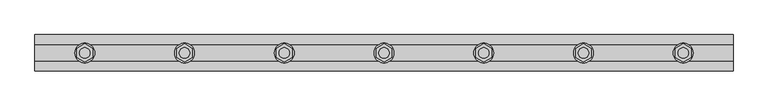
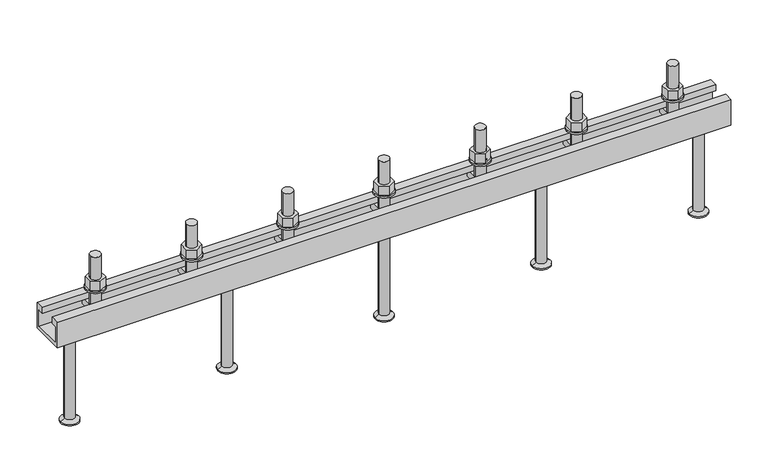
"""IFC4 building model written with IfcOpenShell, lengths in millimetres: fastener geometry, JTA-W JORDAHL® AnchorChannels : JTA-W L=1050 mm."""

from ifc_helpers import new_model, si_unit, point, frame, frame_2d, origin, place, context, project, spatial, polyline, circle_curve, trimmed, segment, composite_curve, outline, extrude, source, transform, mapped, element, save
from ifc_brep_helpers import plane_surface, cylinder_surface, revolved_surface, advanced_brep


def fastener_55e4fc31(model_context):
    return source(origin(), model_context, "Body", "SolidModel", [
        extrude(outline(polyline([(825.0, -13.8564065), (813.0, -6.9282032), (813.0, 6.9282032), (825.0, 13.8564065), (837.0, 6.9282032), (837.0, -6.9282032), (825.0, -13.8564065)]), holes=[composite_curve([segment(trimmed(circle_curve(frame_2d((825.0, 0.0)), 8.0), [point((817.0, 0.0))], [point((833.0, 0.0))], True, "CARTESIAN"), True, "CONTINUOUS"), segment(trimmed(circle_curve(frame_2d((825.0, 0.0)), 8.0), [point((833.0, 0.0))], [point((817.0, 0.0))], True, "CARTESIAN"), True, "CONTINUOUS")], self_intersect=False)]), frame((0.0, 0.0, 18.0), z_axis=(0.0, 0.0, 1.0), x_axis=(1.0, 0.0, 0.0)), (0.0, 0.0, 1.0), 14.8),
        extrude(outline(composite_curve([segment(trimmed(circle_curve(frame_2d((825.0, 0.0)), 15.0), [point((810.0, 0.0))], [point((840.0, 0.0))], False, "CARTESIAN"), True, "CONTINUOUS"), segment(trimmed(circle_curve(frame_2d((825.0, 0.0)), 15.0), [point((840.0, 0.0))], [point((810.0, 0.0))], False, "CARTESIAN"), True, "CONTINUOUS")], self_intersect=False), holes=[composite_curve([segment(trimmed(circle_curve(frame_2d((825.0, 0.0)), 8.5), [point((816.5, 0.0))], [point((833.5, 0.0))], True, "CARTESIAN"), True, "CONTINUOUS"), segment(trimmed(circle_curve(frame_2d((825.0, 0.0)), 8.5), [point((833.5, 0.0))], [point((816.5, 0.0))], True, "CARTESIAN"), True, "CONTINUOUS")], self_intersect=False)]), frame((0.0, 0.0, 15.0), z_axis=(0.0, 0.0, 1.0), x_axis=(1.0, 0.0, 0.0)), (0.0, 0.0, 1.0), 3.0),
        extrude(outline(polyline([(675.0, -13.8564065), (663.0, -6.9282032), (663.0, 6.9282032), (675.0, 13.8564065), (687.0, 6.9282032), (687.0, -6.9282032), (675.0, -13.8564065)]), holes=[composite_curve([segment(trimmed(circle_curve(frame_2d((675.0, 0.0)), 8.0), [point((667.0, 0.0))], [point((683.0, 0.0))], True, "CARTESIAN"), True, "CONTINUOUS"), segment(trimmed(circle_curve(frame_2d((675.0, 0.0)), 8.0), [point((683.0, 0.0))], [point((667.0, 0.0))], True, "CARTESIAN"), True, "CONTINUOUS")], self_intersect=False)]), frame((0.0, 0.0, 18.0), z_axis=(0.0, 0.0, 1.0), x_axis=(1.0, 0.0, 0.0)), (0.0, 0.0, 1.0), 14.8),
        extrude(outline(composite_curve([segment(trimmed(circle_curve(frame_2d((675.0, 0.0)), 15.0), [point((660.0, 0.0))], [point((690.0, 0.0))], False, "CARTESIAN"), True, "CONTINUOUS"), segment(trimmed(circle_curve(frame_2d((675.0, 0.0)), 15.0), [point((690.0, 0.0))], [point((660.0, 0.0))], False, "CARTESIAN"), True, "CONTINUOUS")], self_intersect=False), holes=[composite_curve([segment(trimmed(circle_curve(frame_2d((675.0, 0.0)), 8.5), [point((666.5, 0.0))], [point((683.5, 0.0))], True, "CARTESIAN"), True, "CONTINUOUS"), segment(trimmed(circle_curve(frame_2d((675.0, 0.0)), 8.5), [point((683.5, 0.0))], [point((666.5, 0.0))], True, "CARTESIAN"), True, "CONTINUOUS")], self_intersect=False)]), frame((0.0, 0.0, 15.0), z_axis=(0.0, 0.0, 1.0), x_axis=(1.0, 0.0, 0.0)), (0.0, 0.0, 1.0), 3.0),
        extrude(outline(polyline([(525.0, -13.8564065), (513.0, -6.9282032), (513.0, 6.9282032), (525.0, 13.8564065), (537.0, 6.9282032), (537.0, -6.9282032), (525.0, -13.8564065)]), holes=[composite_curve([segment(trimmed(circle_curve(frame_2d((525.0, 0.0)), 8.0), [point((517.0, 0.0))], [point((533.0, 0.0))], True, "CARTESIAN"), True, "CONTINUOUS"), segment(trimmed(circle_curve(frame_2d((525.0, 0.0)), 8.0), [point((533.0, 0.0))], [point((517.0, 0.0))], True, "CARTESIAN"), True, "CONTINUOUS")], self_intersect=False)]), frame((0.0, 0.0, 18.0), z_axis=(0.0, 0.0, 1.0), x_axis=(1.0, 0.0, 0.0)), (0.0, 0.0, 1.0), 14.8),
        extrude(outline(composite_curve([segment(trimmed(circle_curve(frame_2d((525.0, 0.0)), 15.0), [point((510.0, 0.0))], [point((540.0, 0.0))], False, "CARTESIAN"), True, "CONTINUOUS"), segment(trimmed(circle_curve(frame_2d((525.0, 0.0)), 15.0), [point((540.0, 0.0))], [point((510.0, 0.0))], False, "CARTESIAN"), True, "CONTINUOUS")], self_intersect=False), holes=[composite_curve([segment(trimmed(circle_curve(frame_2d((525.0, 0.0)), 8.5), [point((516.5, 0.0))], [point((533.5, 0.0))], True, "CARTESIAN"), True, "CONTINUOUS"), segment(trimmed(circle_curve(frame_2d((525.0, 0.0)), 8.5), [point((533.5, 0.0))], [point((516.5, 0.0))], True, "CARTESIAN"), True, "CONTINUOUS")], self_intersect=False)]), frame((0.0, 0.0, 15.0), z_axis=(0.0, 0.0, 1.0), x_axis=(1.0, 0.0, 0.0)), (0.0, 0.0, 1.0), 3.0),
        extrude(outline(polyline([(375.0, -13.8564065), (363.0, -6.9282032), (363.0, 6.9282032), (375.0, 13.8564065), (387.0, 6.9282032), (387.0, -6.9282032), (375.0, -13.8564065)]), holes=[composite_curve([segment(trimmed(circle_curve(frame_2d((375.0, 0.0)), 8.0), [point((367.0, 0.0))], [point((383.0, 0.0))], True, "CARTESIAN"), True, "CONTINUOUS"), segment(trimmed(circle_curve(frame_2d((375.0, 0.0)), 8.0), [point((383.0, 0.0))], [point((367.0, 0.0))], True, "CARTESIAN"), True, "CONTINUOUS")], self_intersect=False)]), frame((0.0, 0.0, 18.0), z_axis=(0.0, 0.0, 1.0), x_axis=(1.0, 0.0, 0.0)), (0.0, 0.0, 1.0), 14.8),
        extrude(outline(composite_curve([segment(trimmed(circle_curve(frame_2d((375.0, 0.0)), 15.0), [point((360.0, 0.0))], [point((390.0, 0.0))], False, "CARTESIAN"), True, "CONTINUOUS"), segment(trimmed(circle_curve(frame_2d((375.0, 0.0)), 15.0), [point((390.0, 0.0))], [point((360.0, 0.0))], False, "CARTESIAN"), True, "CONTINUOUS")], self_intersect=False), holes=[composite_curve([segment(trimmed(circle_curve(frame_2d((375.0, 0.0)), 8.5), [point((366.5, 0.0))], [point((383.5, 0.0))], True, "CARTESIAN"), True, "CONTINUOUS"), segment(trimmed(circle_curve(frame_2d((375.0, 0.0)), 8.5), [point((383.5, 0.0))], [point((366.5, 0.0))], True, "CARTESIAN"), True, "CONTINUOUS")], self_intersect=False)]), frame((0.0, 0.0, 15.0), z_axis=(0.0, 0.0, 1.0), x_axis=(1.0, 0.0, 0.0)), (0.0, 0.0, 1.0), 3.0),
        extrude(outline(polyline([(225.0, -13.8564065), (213.0, -6.9282032), (213.0, 6.9282032), (225.0, 13.8564065), (237.0, 6.9282032), (237.0, -6.9282032), (225.0, -13.8564065)]), holes=[composite_curve([segment(trimmed(circle_curve(frame_2d((225.0, 0.0)), 8.0), [point((217.0, 0.0))], [point((233.0, 0.0))], True, "CARTESIAN"), True, "CONTINUOUS"), segment(trimmed(circle_curve(frame_2d((225.0, 0.0)), 8.0), [point((233.0, 0.0))], [point((217.0, 0.0))], True, "CARTESIAN"), True, "CONTINUOUS")], self_intersect=False)]), frame((0.0, 0.0, 18.0), z_axis=(0.0, 0.0, 1.0), x_axis=(1.0, 0.0, 0.0)), (0.0, 0.0, 1.0), 14.8),
        extrude(outline(composite_curve([segment(trimmed(circle_curve(frame_2d((225.0, 0.0)), 15.0), [point((210.0, 0.0))], [point((240.0, 0.0))], False, "CARTESIAN"), True, "CONTINUOUS"), segment(trimmed(circle_curve(frame_2d((225.0, 0.0)), 15.0), [point((240.0, 0.0))], [point((210.0, 0.0))], False, "CARTESIAN"), True, "CONTINUOUS")], self_intersect=False), holes=[composite_curve([segment(trimmed(circle_curve(frame_2d((225.0, 0.0)), 8.5), [point((216.5, 0.0))], [point((233.5, 0.0))], True, "CARTESIAN"), True, "CONTINUOUS"), segment(trimmed(circle_curve(frame_2d((225.0, 0.0)), 8.5), [point((233.5, 0.0))], [point((216.5, 0.0))], True, "CARTESIAN"), True, "CONTINUOUS")], self_intersect=False)]), frame((0.0, 0.0, 15.0), z_axis=(0.0, 0.0, 1.0), x_axis=(1.0, 0.0, 0.0)), (0.0, 0.0, 1.0), 3.0),
        advanced_brep(
        [(833.5, -20.7, -10.0), (833.5, -20.7, -21.0), (833.5, 20.7, -21.0), (833.5, 20.7, -10.0), (816.5, -20.7, -10.0), (816.5, 20.7, -10.0), (816.5, 20.7, -21.0), (816.5, -20.7, -21.0), (833.0, 0.0, -10.0), (817.0, 0.0, -10.0), (817.0, 0.0, 70.0), (833.0, 0.0, 70.0)],
        [
            (0, 1),
            (1, 2),
            (2, 3),
            (3, 0),
            (4, 5),
            (5, 6),
            (6, 7),
            (7, 4),
            (3, 5),
            (4, 0),
            (8, 9, circle_curve(frame((825.0, 0.0, -10.0), z_axis=(0.0, 0.0, -1.0), x_axis=(1.0, 0.0, 0.0)), 8.0)),
            (9, 8, circle_curve(frame((825.0, 0.0, -10.0), z_axis=(0.0, 0.0, -1.0), x_axis=(1.0, 0.0, 0.0)), 8.0)),
            (2, 6),
            (1, 7),
            (10, 11, circle_curve(frame((825.0, 0.0, 70.0), z_axis=(0.0, 0.0, 1.0), x_axis=(1.0, 0.0, 0.0)), 8.0)),
            (11, 10, circle_curve(frame((825.0, 0.0, 70.0), z_axis=(0.0, 0.0, 1.0), x_axis=(1.0, 0.0, 0.0)), 8.0)),
            (11, 8),
            (9, 10),
        ],
        [
            plane_surface(frame((833.5, 20.7, -10.0), z_axis=(1.0, 0.0, 0.0), x_axis=(0.0, 1.0, 0.0))),
            plane_surface(frame((816.5, 20.7, -10.0), z_axis=(-1.0, 0.0, 0.0), x_axis=(0.0, -1.0, 0.0))),
            plane_surface(frame((833.5, -20.7, -10.0), z_axis=(0.0, 0.0, 1.0), x_axis=(-1.0, 0.0, 0.0))),
            plane_surface(frame((833.5, 20.7, -10.0), z_axis=(0.0, 1.0, 0.0), x_axis=(-1.0, 0.0, 0.0))),
            plane_surface(frame((833.5, 20.7, -21.0), z_axis=(0.0, 0.0, -1.0), x_axis=(-1.0, 0.0, 0.0))),
            plane_surface(frame((833.5, -20.7, -21.0), z_axis=(0.0, -1.0, 0.0), x_axis=(-1.0, 0.0, 0.0))),
            plane_surface(frame((833.0, 0.0, 70.0), z_axis=(0.0, 0.0, 1.0), x_axis=(0.0, -1.0, 0.0))),
            cylinder_surface(frame((825.0, 0.0, -10.0), z_axis=(0.0, 0.0, 1.0), x_axis=(1.0, 0.0, 0.0)), 8.0),
        ],
        [
            (0, [[1, 2, 3, 4]]),
            (1, [[5, 6, 7, 8]]),
            (2, [[9, -5, 10, -4], [11, 12]]),
            (3, [[13, -6, -9, -3]]),
            (4, [[14, -7, -13, -2]]),
            (5, [[-10, -8, -14, -1]]),
            (6, [[15, 16]]),
            (7, [[17, -12, 18, -16]]),
            (7, [[-18, -11, -17, -15]]),
        ],
    ),
        advanced_brep(
        [(683.5, -20.7, -10.0), (683.5, -20.7, -21.0), (683.5, 20.7, -21.0), (683.5, 20.7, -10.0), (666.5, -20.7, -10.0), (666.5, 20.7, -10.0), (666.5, 20.7, -21.0), (666.5, -20.7, -21.0), (683.0, 0.0, -10.0), (667.0, 0.0, -10.0), (667.0, 0.0, 70.0), (683.0, 0.0, 70.0)],
        [
            (0, 1),
            (1, 2),
            (2, 3),
            (3, 0),
            (4, 5),
            (5, 6),
            (6, 7),
            (7, 4),
            (3, 5),
            (4, 0),
            (8, 9, circle_curve(frame((675.0, 0.0, -10.0), z_axis=(0.0, 0.0, -1.0), x_axis=(1.0, 0.0, 0.0)), 8.0)),
            (9, 8, circle_curve(frame((675.0, 0.0, -10.0), z_axis=(0.0, 0.0, -1.0), x_axis=(1.0, 0.0, 0.0)), 8.0)),
            (2, 6),
            (1, 7),
            (10, 11, circle_curve(frame((675.0, 0.0, 70.0), z_axis=(0.0, 0.0, 1.0), x_axis=(1.0, 0.0, 0.0)), 8.0)),
            (11, 10, circle_curve(frame((675.0, 0.0, 70.0), z_axis=(0.0, 0.0, 1.0), x_axis=(1.0, 0.0, 0.0)), 8.0)),
            (11, 8),
            (9, 10),
        ],
        [
            plane_surface(frame((683.5, 20.7, -10.0), z_axis=(1.0, 0.0, 0.0), x_axis=(0.0, 1.0, 0.0))),
            plane_surface(frame((666.5, 20.7, -10.0), z_axis=(-1.0, 0.0, 0.0), x_axis=(0.0, -1.0, 0.0))),
            plane_surface(frame((683.5, -20.7, -10.0), z_axis=(0.0, 0.0, 1.0), x_axis=(-1.0, 0.0, 0.0))),
            plane_surface(frame((683.5, 20.7, -10.0), z_axis=(0.0, 1.0, 0.0), x_axis=(-1.0, 0.0, 0.0))),
            plane_surface(frame((683.5, 20.7, -21.0), z_axis=(0.0, 0.0, -1.0), x_axis=(-1.0, 0.0, 0.0))),
            plane_surface(frame((683.5, -20.7, -21.0), z_axis=(0.0, -1.0, 0.0), x_axis=(-1.0, 0.0, 0.0))),
            plane_surface(frame((683.0, 0.0, 70.0), z_axis=(0.0, 0.0, 1.0), x_axis=(0.0, -1.0, 0.0))),
            cylinder_surface(frame((675.0, 0.0, -10.0), z_axis=(0.0, 0.0, 1.0), x_axis=(1.0, 0.0, 0.0)), 8.0),
        ],
        [
            (0, [[1, 2, 3, 4]]),
            (1, [[5, 6, 7, 8]]),
            (2, [[9, -5, 10, -4], [11, 12]]),
            (3, [[13, -6, -9, -3]]),
            (4, [[14, -7, -13, -2]]),
            (5, [[-10, -8, -14, -1]]),
            (6, [[15, 16]]),
            (7, [[17, -12, 18, -16]]),
            (7, [[-18, -11, -17, -15]]),
        ],
    ),
        advanced_brep(
        [(533.5, -20.7, -10.0), (533.5, -20.7, -21.0), (533.5, 20.7, -21.0), (533.5, 20.7, -10.0), (516.5, -20.7, -10.0), (516.5, 20.7, -10.0), (516.5, 20.7, -21.0), (516.5, -20.7, -21.0), (533.0, 0.0, -10.0), (517.0, 0.0, -10.0), (517.0, 0.0, 70.0), (533.0, 0.0, 70.0)],
        [
            (0, 1),
            (1, 2),
            (2, 3),
            (3, 0),
            (4, 5),
            (5, 6),
            (6, 7),
            (7, 4),
            (3, 5),
            (4, 0),
            (8, 9, circle_curve(frame((525.0, 0.0, -10.0), z_axis=(0.0, 0.0, -1.0), x_axis=(1.0, 0.0, 0.0)), 8.0)),
            (9, 8, circle_curve(frame((525.0, 0.0, -10.0), z_axis=(0.0, 0.0, -1.0), x_axis=(1.0, 0.0, 0.0)), 8.0)),
            (2, 6),
            (1, 7),
            (10, 11, circle_curve(frame((525.0, 0.0, 70.0), z_axis=(0.0, 0.0, 1.0), x_axis=(1.0, 0.0, 0.0)), 8.0)),
            (11, 10, circle_curve(frame((525.0, 0.0, 70.0), z_axis=(0.0, 0.0, 1.0), x_axis=(1.0, 0.0, 0.0)), 8.0)),
            (11, 8),
            (9, 10),
        ],
        [
            plane_surface(frame((533.5, 20.7, -10.0), z_axis=(1.0, 0.0, 0.0), x_axis=(0.0, 1.0, 0.0))),
            plane_surface(frame((516.5, 20.7, -10.0), z_axis=(-1.0, 0.0, 0.0), x_axis=(0.0, -1.0, 0.0))),
            plane_surface(frame((533.5, -20.7, -10.0), z_axis=(0.0, 0.0, 1.0), x_axis=(-1.0, 0.0, 0.0))),
            plane_surface(frame((533.5, 20.7, -10.0), z_axis=(0.0, 1.0, 0.0), x_axis=(-1.0, 0.0, 0.0))),
            plane_surface(frame((533.5, 20.7, -21.0), z_axis=(0.0, 0.0, -1.0), x_axis=(-1.0, 0.0, 0.0))),
            plane_surface(frame((533.5, -20.7, -21.0), z_axis=(0.0, -1.0, 0.0), x_axis=(-1.0, 0.0, 0.0))),
            plane_surface(frame((533.0, 0.0, 70.0), z_axis=(0.0, 0.0, 1.0), x_axis=(0.0, -1.0, 0.0))),
            cylinder_surface(frame((525.0, 0.0, -10.0), z_axis=(0.0, 0.0, 1.0), x_axis=(1.0, 0.0, 0.0)), 8.0),
        ],
        [
            (0, [[1, 2, 3, 4]]),
            (1, [[5, 6, 7, 8]]),
            (2, [[9, -5, 10, -4], [11, 12]]),
            (3, [[13, -6, -9, -3]]),
            (4, [[14, -7, -13, -2]]),
            (5, [[-10, -8, -14, -1]]),
            (6, [[15, 16]]),
            (7, [[17, -12, 18, -16]]),
            (7, [[-18, -11, -17, -15]]),
        ],
    ),
        advanced_brep(
        [(383.5, -20.7, -10.0), (383.5, -20.7, -21.0), (383.5, 20.7, -21.0), (383.5, 20.7, -10.0), (366.5, -20.7, -10.0), (366.5, 20.7, -10.0), (366.5, 20.7, -21.0), (366.5, -20.7, -21.0), (383.0, 0.0, -10.0), (367.0, 0.0, -10.0), (367.0, 0.0, 70.0), (383.0, 0.0, 70.0)],
        [
            (0, 1),
            (1, 2),
            (2, 3),
            (3, 0),
            (4, 5),
            (5, 6),
            (6, 7),
            (7, 4),
            (3, 5),
            (4, 0),
            (8, 9, circle_curve(frame((375.0, 0.0, -10.0), z_axis=(0.0, 0.0, -1.0), x_axis=(1.0, 0.0, 0.0)), 8.0)),
            (9, 8, circle_curve(frame((375.0, 0.0, -10.0), z_axis=(0.0, 0.0, -1.0), x_axis=(1.0, 0.0, 0.0)), 8.0)),
            (2, 6),
            (1, 7),
            (10, 11, circle_curve(frame((375.0, 0.0, 70.0), z_axis=(0.0, 0.0, 1.0), x_axis=(1.0, 0.0, 0.0)), 8.0)),
            (11, 10, circle_curve(frame((375.0, 0.0, 70.0), z_axis=(0.0, 0.0, 1.0), x_axis=(1.0, 0.0, 0.0)), 8.0)),
            (11, 8),
            (9, 10),
        ],
        [
            plane_surface(frame((383.5, 20.7, -10.0), z_axis=(1.0, 0.0, 0.0), x_axis=(0.0, 1.0, 0.0))),
            plane_surface(frame((366.5, 20.7, -10.0), z_axis=(-1.0, 0.0, 0.0), x_axis=(0.0, -1.0, 0.0))),
            plane_surface(frame((383.5, -20.7, -10.0), z_axis=(0.0, 0.0, 1.0), x_axis=(-1.0, 0.0, 0.0))),
            plane_surface(frame((383.5, 20.7, -10.0), z_axis=(0.0, 1.0, 0.0), x_axis=(-1.0, 0.0, 0.0))),
            plane_surface(frame((383.5, 20.7, -21.0), z_axis=(0.0, 0.0, -1.0), x_axis=(-1.0, 0.0, 0.0))),
            plane_surface(frame((383.5, -20.7, -21.0), z_axis=(0.0, -1.0, 0.0), x_axis=(-1.0, 0.0, 0.0))),
            plane_surface(frame((383.0, 0.0, 70.0), z_axis=(0.0, 0.0, 1.0), x_axis=(0.0, -1.0, 0.0))),
            cylinder_surface(frame((375.0, 0.0, -10.0), z_axis=(0.0, 0.0, 1.0), x_axis=(1.0, 0.0, 0.0)), 8.0),
        ],
        [
            (0, [[1, 2, 3, 4]]),
            (1, [[5, 6, 7, 8]]),
            (2, [[9, -5, 10, -4], [11, 12]]),
            (3, [[13, -6, -9, -3]]),
            (4, [[14, -7, -13, -2]]),
            (5, [[-10, -8, -14, -1]]),
            (6, [[15, 16]]),
            (7, [[17, -12, 18, -16]]),
            (7, [[-18, -11, -17, -15]]),
        ],
    ),
        advanced_brep(
        [(233.5, -20.7, -10.0), (233.5, -20.7, -21.0), (233.5, 20.7, -21.0), (233.5, 20.7, -10.0), (216.5, -20.7, -10.0), (216.5, 20.7, -10.0), (216.5, 20.7, -21.0), (216.5, -20.7, -21.0), (233.0, 0.0, -10.0), (217.0, 0.0, -10.0), (217.0, 0.0, 70.0), (233.0, 0.0, 70.0)],
        [
            (0, 1),
            (1, 2),
            (2, 3),
            (3, 0),
            (4, 5),
            (5, 6),
            (6, 7),
            (7, 4),
            (3, 5),
            (4, 0),
            (8, 9, circle_curve(frame((225.0, 0.0, -10.0), z_axis=(0.0, 0.0, -1.0), x_axis=(1.0, 0.0, 0.0)), 8.0)),
            (9, 8, circle_curve(frame((225.0, 0.0, -10.0), z_axis=(0.0, 0.0, -1.0), x_axis=(1.0, 0.0, 0.0)), 8.0)),
            (2, 6),
            (1, 7),
            (10, 11, circle_curve(frame((225.0, 0.0, 70.0), z_axis=(0.0, 0.0, 1.0), x_axis=(1.0, 0.0, 0.0)), 8.0)),
            (11, 10, circle_curve(frame((225.0, 0.0, 70.0), z_axis=(0.0, 0.0, 1.0), x_axis=(1.0, 0.0, 0.0)), 8.0)),
            (11, 8),
            (9, 10),
        ],
        [
            plane_surface(frame((233.5, 20.7, -10.0), z_axis=(1.0, 0.0, 0.0), x_axis=(0.0, 1.0, 0.0))),
            plane_surface(frame((216.5, 20.7, -10.0), z_axis=(-1.0, 0.0, 0.0), x_axis=(0.0, -1.0, 0.0))),
            plane_surface(frame((233.5, -20.7, -10.0), z_axis=(0.0, 0.0, 1.0), x_axis=(-1.0, 0.0, 0.0))),
            plane_surface(frame((233.5, 20.7, -10.0), z_axis=(0.0, 1.0, 0.0), x_axis=(-1.0, 0.0, 0.0))),
            plane_surface(frame((233.5, 20.7, -21.0), z_axis=(0.0, 0.0, -1.0), x_axis=(-1.0, 0.0, 0.0))),
            plane_surface(frame((233.5, -20.7, -21.0), z_axis=(0.0, -1.0, 0.0), x_axis=(-1.0, 0.0, 0.0))),
            plane_surface(frame((233.0, 0.0, 70.0), z_axis=(0.0, 0.0, 1.0), x_axis=(0.0, -1.0, 0.0))),
            cylinder_surface(frame((225.0, 0.0, -10.0), z_axis=(0.0, 0.0, 1.0), x_axis=(1.0, 0.0, 0.0)), 8.0),
        ],
        [
            (0, [[1, 2, 3, 4]]),
            (1, [[5, 6, 7, 8]]),
            (2, [[9, -5, 10, -4], [11, 12]]),
            (3, [[13, -6, -9, -3]]),
            (4, [[14, -7, -13, -2]]),
            (5, [[-10, -8, -14, -1]]),
            (6, [[15, 16]]),
            (7, [[17, -12, 18, -16]]),
            (7, [[-18, -11, -17, -15]]),
        ],
    ),
        advanced_brep(
        [(770.0, 0.0, -42.0), (747.0, 0.0, -42.0), (793.0, 0.0, -42.0), (756.0, 0.0, -190.0), (770.0, 0.0, -190.0), (784.0, 0.0, -190.0), (756.0, 0.0, -188.0), (784.0, 0.0, -188.0), (762.2, 0.0, -184.4204283), (777.8, 0.0, -184.4204283), (762.2, 0.0, -46.0), (777.8, 0.0, -46.0)],
        [
            (0, 1),
            (1, 2, circle_curve(frame((770.0, 0.0, -42.0), z_axis=(0.0, 0.0, 1.0), x_axis=(1.0, 0.0, 0.0)), 23.0)),
            (2, 0),
            (2, 1, circle_curve(frame((770.0, 0.0, -42.0), z_axis=(0.0, 0.0, 1.0), x_axis=(1.0, 0.0, 0.0)), 23.0)),
            (3, 4),
            (4, 5),
            (5, 3, circle_curve(frame((770.0, 0.0, -190.0), z_axis=(0.0, 0.0, -1.0), x_axis=(1.0, 0.0, 0.0)), 14.0)),
            (3, 5, circle_curve(frame((770.0, 0.0, -190.0), z_axis=(0.0, 0.0, -1.0), x_axis=(1.0, 0.0, 0.0)), 14.0)),
            (6, 3),
            (5, 7),
            (7, 6, circle_curve(frame((770.0, 0.0, -188.0), z_axis=(0.0, 0.0, -1.0), x_axis=(1.0, 0.0, 0.0)), 14.0)),
            (6, 7, circle_curve(frame((770.0, 0.0, -188.0), z_axis=(0.0, 0.0, -1.0), x_axis=(1.0, 0.0, 0.0)), 14.0)),
            (8, 6),
            (7, 9),
            (9, 8, circle_curve(frame((770.0, 0.0, -184.4204283), z_axis=(0.0, 0.0, -1.0), x_axis=(1.0, 0.0, 0.0)), 7.8)),
            (8, 9, circle_curve(frame((770.0, 0.0, -184.4204283), z_axis=(0.0, 0.0, -1.0), x_axis=(1.0, 0.0, 0.0)), 7.8)),
            (10, 8),
            (9, 11),
            (11, 10, circle_curve(frame((770.0, 0.0, -46.0), z_axis=(0.0, 0.0, -1.0), x_axis=(1.0, 0.0, 0.0)), 7.8)),
            (10, 11, circle_curve(frame((770.0, 0.0, -46.0), z_axis=(0.0, 0.0, -1.0), x_axis=(1.0, 0.0, 0.0)), 7.8)),
            (1, 10),
            (11, 2),
        ],
        [
            plane_surface(frame((770.0, 0.0, -42.0), z_axis=(0.0, 0.0, 1.0), x_axis=(1.0, 0.0, 0.0))),
            plane_surface(frame((770.0, 0.0, -190.0), z_axis=(0.0, 0.0, -1.0), x_axis=(1.0, 0.0, 0.0))),
            cylinder_surface(frame((770.0, 0.0, 2362.3150031), z_axis=(0.0, 0.0, 1.0), x_axis=(1.0, 0.0, 0.0)), 14.0),
            revolved_surface(polyline([(784.0, 0.0, -188.0), (777.8, 0.0, -184.4204283)]), (770.0, 0.0, 2362.3150031), (0.0, 0.0, 1.0)),
            cylinder_surface(frame((770.0, 0.0, 2362.3150031), z_axis=(0.0, 0.0, 1.0), x_axis=(1.0, 0.0, 0.0)), 7.8),
            revolved_surface(polyline([(777.8, 0.0, -46.0), (793.0, 0.0, -42.0)]), (770.0, 0.0, 2362.3150031), (0.0, 0.0, 1.0)),
        ],
        [
            (0, [[1, 2, 3]]),
            (0, [[-3, 4, -1]]),
            (1, [[5, 6, 7]]),
            (1, [[-6, -5, 8]]),
            (2, [[9, -7, 10, 11]]),
            (2, [[-10, -8, -9, 12]]),
            (3, [[13, -11, 14, 15]]),
            (3, [[-14, -12, -13, 16]]),
            (4, [[17, -15, 18, 19]]),
            (4, [[-18, -16, -17, 20]]),
            (5, [[21, -19, 22, -2]]),
            (5, [[-22, -20, -21, -4]]),
        ],
    ),
        advanced_brep(
        [(525.0, 0.0, -42.0), (502.0, 0.0, -42.0), (548.0, 0.0, -42.0), (511.0, 0.0, -190.0), (525.0, 0.0, -190.0), (539.0, 0.0, -190.0), (511.0, 0.0, -188.0), (539.0, 0.0, -188.0), (517.2, 0.0, -184.4204283), (532.8, 0.0, -184.4204283), (517.2, 0.0, -46.0), (532.8, 0.0, -46.0)],
        [
            (0, 1),
            (1, 2, circle_curve(frame((525.0, 0.0, -42.0), z_axis=(0.0, 0.0, 1.0), x_axis=(1.0, 0.0, 0.0)), 23.0)),
            (2, 0),
            (2, 1, circle_curve(frame((525.0, 0.0, -42.0), z_axis=(0.0, 0.0, 1.0), x_axis=(1.0, 0.0, 0.0)), 23.0)),
            (3, 4),
            (4, 5),
            (5, 3, circle_curve(frame((525.0, 0.0, -190.0), z_axis=(0.0, 0.0, -1.0), x_axis=(1.0, 0.0, 0.0)), 14.0)),
            (3, 5, circle_curve(frame((525.0, 0.0, -190.0), z_axis=(0.0, 0.0, -1.0), x_axis=(1.0, 0.0, 0.0)), 14.0)),
            (6, 3),
            (5, 7),
            (7, 6, circle_curve(frame((525.0, 0.0, -188.0), z_axis=(0.0, 0.0, -1.0), x_axis=(1.0, 0.0, 0.0)), 14.0)),
            (6, 7, circle_curve(frame((525.0, 0.0, -188.0), z_axis=(0.0, 0.0, -1.0), x_axis=(1.0, 0.0, 0.0)), 14.0)),
            (8, 6),
            (7, 9),
            (9, 8, circle_curve(frame((525.0, 0.0, -184.4204283), z_axis=(0.0, 0.0, -1.0), x_axis=(1.0, 0.0, 0.0)), 7.8)),
            (8, 9, circle_curve(frame((525.0, 0.0, -184.4204283), z_axis=(0.0, 0.0, -1.0), x_axis=(1.0, 0.0, 0.0)), 7.8)),
            (10, 8),
            (9, 11),
            (11, 10, circle_curve(frame((525.0, 0.0, -46.0), z_axis=(0.0, 0.0, -1.0), x_axis=(1.0, 0.0, 0.0)), 7.8)),
            (10, 11, circle_curve(frame((525.0, 0.0, -46.0), z_axis=(0.0, 0.0, -1.0), x_axis=(1.0, 0.0, 0.0)), 7.8)),
            (1, 10),
            (11, 2),
        ],
        [
            plane_surface(frame((525.0, 0.0, -42.0), z_axis=(0.0, 0.0, 1.0), x_axis=(1.0, 0.0, 0.0))),
            plane_surface(frame((525.0, 0.0, -190.0), z_axis=(0.0, 0.0, -1.0), x_axis=(1.0, 0.0, 0.0))),
            cylinder_surface(frame((525.0, 0.0, 2362.3150031), z_axis=(0.0, 0.0, 1.0), x_axis=(1.0, 0.0, 0.0)), 14.0),
            revolved_surface(polyline([(539.0, 0.0, -188.0), (532.8, 0.0, -184.4204283)]), (525.0, 0.0, 2362.3150031), (0.0, 0.0, 1.0)),
            cylinder_surface(frame((525.0, 0.0, 2362.3150031), z_axis=(0.0, 0.0, 1.0), x_axis=(1.0, 0.0, 0.0)), 7.8),
            revolved_surface(polyline([(532.8, 0.0, -46.0), (548.0, 0.0, -42.0)]), (525.0, 0.0, 2362.3150031), (0.0, 0.0, 1.0)),
        ],
        [
            (0, [[1, 2, 3]]),
            (0, [[-3, 4, -1]]),
            (1, [[5, 6, 7]]),
            (1, [[-6, -5, 8]]),
            (2, [[9, -7, 10, 11]]),
            (2, [[-10, -8, -9, 12]]),
            (3, [[13, -11, 14, 15]]),
            (3, [[-14, -12, -13, 16]]),
            (4, [[17, -15, 18, 19]]),
            (4, [[-18, -16, -17, 20]]),
            (5, [[21, -19, 22, -2]]),
            (5, [[-22, -20, -21, -4]]),
        ],
    ),
        advanced_brep(
        [(280.0, 0.0, -42.0), (257.0, 0.0, -42.0), (303.0, 0.0, -42.0), (266.0, 0.0, -190.0), (280.0, 0.0, -190.0), (294.0, 0.0, -190.0), (266.0, 0.0, -188.0), (294.0, 0.0, -188.0), (272.2, 0.0, -184.4204283), (287.8, 0.0, -184.4204283), (272.2, 0.0, -46.0), (287.8, 0.0, -46.0)],
        [
            (0, 1),
            (1, 2, circle_curve(frame((280.0, 0.0, -42.0), z_axis=(0.0, 0.0, 1.0), x_axis=(1.0, 0.0, 0.0)), 23.0)),
            (2, 0),
            (2, 1, circle_curve(frame((280.0, 0.0, -42.0), z_axis=(0.0, 0.0, 1.0), x_axis=(1.0, 0.0, 0.0)), 23.0)),
            (3, 4),
            (4, 5),
            (5, 3, circle_curve(frame((280.0, 0.0, -190.0), z_axis=(0.0, 0.0, -1.0), x_axis=(1.0, 0.0, 0.0)), 14.0)),
            (3, 5, circle_curve(frame((280.0, 0.0, -190.0), z_axis=(0.0, 0.0, -1.0), x_axis=(1.0, 0.0, 0.0)), 14.0)),
            (6, 3),
            (5, 7),
            (7, 6, circle_curve(frame((280.0, 0.0, -188.0), z_axis=(0.0, 0.0, -1.0), x_axis=(1.0, 0.0, 0.0)), 14.0)),
            (6, 7, circle_curve(frame((280.0, 0.0, -188.0), z_axis=(0.0, 0.0, -1.0), x_axis=(1.0, 0.0, 0.0)), 14.0)),
            (8, 6),
            (7, 9),
            (9, 8, circle_curve(frame((280.0, 0.0, -184.4204283), z_axis=(0.0, 0.0, -1.0), x_axis=(1.0, 0.0, 0.0)), 7.8)),
            (8, 9, circle_curve(frame((280.0, 0.0, -184.4204283), z_axis=(0.0, 0.0, -1.0), x_axis=(1.0, 0.0, 0.0)), 7.8)),
            (10, 8),
            (9, 11),
            (11, 10, circle_curve(frame((280.0, 0.0, -46.0), z_axis=(0.0, 0.0, -1.0), x_axis=(1.0, 0.0, 0.0)), 7.8)),
            (10, 11, circle_curve(frame((280.0, 0.0, -46.0), z_axis=(0.0, 0.0, -1.0), x_axis=(1.0, 0.0, 0.0)), 7.8)),
            (1, 10),
            (11, 2),
        ],
        [
            plane_surface(frame((280.0, 0.0, -42.0), z_axis=(0.0, 0.0, 1.0), x_axis=(1.0, 0.0, 0.0))),
            plane_surface(frame((280.0, 0.0, -190.0), z_axis=(0.0, 0.0, -1.0), x_axis=(1.0, 0.0, 0.0))),
            cylinder_surface(frame((280.0, 0.0, 2362.3150031), z_axis=(0.0, 0.0, 1.0), x_axis=(1.0, 0.0, 0.0)), 14.0),
            revolved_surface(polyline([(294.0, 0.0, -188.0), (287.8, 0.0, -184.4204283)]), (280.0, 0.0, 2362.3150031), (0.0, 0.0, 1.0)),
            cylinder_surface(frame((280.0, 0.0, 2362.3150031), z_axis=(0.0, 0.0, 1.0), x_axis=(1.0, 0.0, 0.0)), 7.8),
            revolved_surface(polyline([(287.8, 0.0, -46.0), (303.0, 0.0, -42.0)]), (280.0, 0.0, 2362.3150031), (0.0, 0.0, 1.0)),
        ],
        [
            (0, [[1, 2, 3]]),
            (0, [[-3, 4, -1]]),
            (1, [[5, 6, 7]]),
            (1, [[-6, -5, 8]]),
            (2, [[9, -7, 10, 11]]),
            (2, [[-10, -8, -9, 12]]),
            (3, [[13, -11, 14, 15]]),
            (3, [[-14, -12, -13, 16]]),
            (4, [[17, -15, 18, 19]]),
            (4, [[-18, -16, -17, 20]]),
            (5, [[21, -19, 22, -2]]),
            (5, [[-22, -20, -21, -4]]),
        ],
    ),
        extrude(outline(polyline([(975.0, -13.8564065), (963.0, -6.9282032), (963.0, 6.9282032), (975.0, 13.8564065), (987.0, 6.9282032), (987.0, -6.9282032), (975.0, -13.8564065)]), holes=[composite_curve([segment(trimmed(circle_curve(frame_2d((975.0, 0.0)), 8.0), [point((967.0, 0.0))], [point((983.0, 0.0))], True, "CARTESIAN"), True, "CONTINUOUS"), segment(trimmed(circle_curve(frame_2d((975.0, 0.0)), 8.0), [point((983.0, 0.0))], [point((967.0, 0.0))], True, "CARTESIAN"), True, "CONTINUOUS")], self_intersect=False)]), frame((0.0, 0.0, 18.0), z_axis=(0.0, 0.0, 1.0), x_axis=(1.0, 0.0, 0.0)), (0.0, 0.0, 1.0), 14.8),
        extrude(outline(composite_curve([segment(trimmed(circle_curve(frame_2d((975.0, 0.0)), 15.0), [point((960.0, 0.0))], [point((990.0, 0.0))], False, "CARTESIAN"), True, "CONTINUOUS"), segment(trimmed(circle_curve(frame_2d((975.0, 0.0)), 15.0), [point((990.0, 0.0))], [point((960.0, 0.0))], False, "CARTESIAN"), True, "CONTINUOUS")], self_intersect=False), holes=[composite_curve([segment(trimmed(circle_curve(frame_2d((975.0, 0.0)), 8.5), [point((966.5, 0.0))], [point((983.5, 0.0))], True, "CARTESIAN"), True, "CONTINUOUS"), segment(trimmed(circle_curve(frame_2d((975.0, 0.0)), 8.5), [point((983.5, 0.0))], [point((966.5, 0.0))], True, "CARTESIAN"), True, "CONTINUOUS")], self_intersect=False)]), frame((0.0, 0.0, 15.0), z_axis=(0.0, 0.0, 1.0), x_axis=(1.0, 0.0, 0.0)), (0.0, 0.0, 1.0), 3.0),
        extrude(outline(polyline([(75.0, -13.8564065), (63.0, -6.9282032), (63.0, 6.9282032), (75.0, 13.8564065), (87.0, 6.9282032), (87.0, -6.9282032), (75.0, -13.8564065)]), holes=[composite_curve([segment(trimmed(circle_curve(frame_2d((75.0, 0.0)), 8.0), [point((67.0, 0.0))], [point((83.0, 0.0))], True, "CARTESIAN"), True, "CONTINUOUS"), segment(trimmed(circle_curve(frame_2d((75.0, 0.0)), 8.0), [point((83.0, 0.0))], [point((67.0, 0.0))], True, "CARTESIAN"), True, "CONTINUOUS")], self_intersect=False)]), frame((0.0, 0.0, 18.0), z_axis=(0.0, 0.0, 1.0), x_axis=(1.0, 0.0, 0.0)), (0.0, 0.0, 1.0), 14.8),
        extrude(outline(composite_curve([segment(trimmed(circle_curve(frame_2d((75.0, 0.0)), 15.0), [point((60.0, 0.0))], [point((90.0, 0.0))], False, "CARTESIAN"), True, "CONTINUOUS"), segment(trimmed(circle_curve(frame_2d((75.0, 0.0)), 15.0), [point((90.0, 0.0))], [point((60.0, 0.0))], False, "CARTESIAN"), True, "CONTINUOUS")], self_intersect=False), holes=[composite_curve([segment(trimmed(circle_curve(frame_2d((75.0, 0.0)), 8.5), [point((66.5, 0.0))], [point((83.5, 0.0))], True, "CARTESIAN"), True, "CONTINUOUS"), segment(trimmed(circle_curve(frame_2d((75.0, 0.0)), 8.5), [point((83.5, 0.0))], [point((66.5, 0.0))], True, "CARTESIAN"), True, "CONTINUOUS")], self_intersect=False)]), frame((0.0, 0.0, 15.0), z_axis=(0.0, 0.0, 1.0), x_axis=(1.0, 0.0, 0.0)), (0.0, 0.0, 1.0), 3.0),
        advanced_brep(
        [(983.5, -20.7, -10.0), (983.5, -20.7, -21.0), (983.5, 20.7, -21.0), (983.5, 20.7, -10.0), (966.5, -20.7, -10.0), (966.5, 20.7, -10.0), (966.5, 20.7, -21.0), (966.5, -20.7, -21.0), (983.0, 0.0, -10.0), (967.0, 0.0, -10.0), (967.0, 0.0, 70.0), (983.0, 0.0, 70.0)],
        [
            (0, 1),
            (1, 2),
            (2, 3),
            (3, 0),
            (4, 5),
            (5, 6),
            (6, 7),
            (7, 4),
            (3, 5),
            (4, 0),
            (8, 9, circle_curve(frame((975.0, 0.0, -10.0), z_axis=(0.0, 0.0, -1.0), x_axis=(1.0, 0.0, 0.0)), 8.0)),
            (9, 8, circle_curve(frame((975.0, 0.0, -10.0), z_axis=(0.0, 0.0, -1.0), x_axis=(1.0, 0.0, 0.0)), 8.0)),
            (2, 6),
            (1, 7),
            (10, 11, circle_curve(frame((975.0, 0.0, 70.0), z_axis=(0.0, 0.0, 1.0), x_axis=(1.0, 0.0, 0.0)), 8.0)),
            (11, 10, circle_curve(frame((975.0, 0.0, 70.0), z_axis=(0.0, 0.0, 1.0), x_axis=(1.0, 0.0, 0.0)), 8.0)),
            (11, 8),
            (9, 10),
        ],
        [
            plane_surface(frame((983.5, 20.7, -10.0), z_axis=(1.0, 0.0, 0.0), x_axis=(0.0, 1.0, 0.0))),
            plane_surface(frame((966.5, 20.7, -10.0), z_axis=(-1.0, 0.0, 0.0), x_axis=(0.0, -1.0, 0.0))),
            plane_surface(frame((983.5, -20.7, -10.0), z_axis=(0.0, 0.0, 1.0), x_axis=(-1.0, 0.0, 0.0))),
            plane_surface(frame((983.5, 20.7, -10.0), z_axis=(0.0, 1.0, 0.0), x_axis=(-1.0, 0.0, 0.0))),
            plane_surface(frame((983.5, 20.7, -21.0), z_axis=(0.0, 0.0, -1.0), x_axis=(-1.0, 0.0, 0.0))),
            plane_surface(frame((983.5, -20.7, -21.0), z_axis=(0.0, -1.0, 0.0), x_axis=(-1.0, 0.0, 0.0))),
            plane_surface(frame((983.0, 0.0, 70.0), z_axis=(0.0, 0.0, 1.0), x_axis=(0.0, -1.0, 0.0))),
            cylinder_surface(frame((975.0, 0.0, -10.0), z_axis=(0.0, 0.0, 1.0), x_axis=(1.0, 0.0, 0.0)), 8.0),
        ],
        [
            (0, [[1, 2, 3, 4]]),
            (1, [[5, 6, 7, 8]]),
            (2, [[9, -5, 10, -4], [11, 12]]),
            (3, [[13, -6, -9, -3]]),
            (4, [[14, -7, -13, -2]]),
            (5, [[-10, -8, -14, -1]]),
            (6, [[15, 16]]),
            (7, [[17, -12, 18, -16]]),
            (7, [[-18, -11, -17, -15]]),
        ],
    ),
        advanced_brep(
        [(83.5, -20.7, -10.0), (83.5, -20.7, -21.0), (83.5, 20.7, -21.0), (83.5, 20.7, -10.0), (66.5, -20.7, -10.0), (66.5, 20.7, -10.0), (66.5, 20.7, -21.0), (66.5, -20.7, -21.0), (83.0, 0.0, -10.0), (67.0, 0.0, -10.0), (67.0, 0.0, 70.0), (83.0, 0.0, 70.0)],
        [
            (0, 1),
            (1, 2),
            (2, 3),
            (3, 0),
            (4, 5),
            (5, 6),
            (6, 7),
            (7, 4),
            (3, 5),
            (4, 0),
            (8, 9, circle_curve(frame((75.0, 0.0, -10.0), z_axis=(0.0, 0.0, -1.0), x_axis=(1.0, 0.0, 0.0)), 8.0)),
            (9, 8, circle_curve(frame((75.0, 0.0, -10.0), z_axis=(0.0, 0.0, -1.0), x_axis=(1.0, 0.0, 0.0)), 8.0)),
            (2, 6),
            (1, 7),
            (10, 11, circle_curve(frame((75.0, 0.0, 70.0), z_axis=(0.0, 0.0, 1.0), x_axis=(1.0, 0.0, 0.0)), 8.0)),
            (11, 10, circle_curve(frame((75.0, 0.0, 70.0), z_axis=(0.0, 0.0, 1.0), x_axis=(1.0, 0.0, 0.0)), 8.0)),
            (11, 8),
            (9, 10),
        ],
        [
            plane_surface(frame((83.5, 20.7, -10.0), z_axis=(1.0, 0.0, 0.0), x_axis=(0.0, 1.0, 0.0))),
            plane_surface(frame((66.5, 20.7, -10.0), z_axis=(-1.0, 0.0, 0.0), x_axis=(0.0, -1.0, 0.0))),
            plane_surface(frame((83.5, -20.7, -10.0), z_axis=(0.0, 0.0, 1.0), x_axis=(-1.0, 0.0, 0.0))),
            plane_surface(frame((83.5, 20.7, -10.0), z_axis=(0.0, 1.0, 0.0), x_axis=(-1.0, 0.0, 0.0))),
            plane_surface(frame((83.5, 20.7, -21.0), z_axis=(0.0, 0.0, -1.0), x_axis=(-1.0, 0.0, 0.0))),
            plane_surface(frame((83.5, -20.7, -21.0), z_axis=(0.0, -1.0, 0.0), x_axis=(-1.0, 0.0, 0.0))),
            plane_surface(frame((83.0, 0.0, 70.0), z_axis=(0.0, 0.0, 1.0), x_axis=(0.0, -1.0, 0.0))),
            cylinder_surface(frame((75.0, 0.0, -10.0), z_axis=(0.0, 0.0, 1.0), x_axis=(1.0, 0.0, 0.0)), 8.0),
        ],
        [
            (0, [[1, 2, 3, 4]]),
            (1, [[5, 6, 7, 8]]),
            (2, [[9, -5, 10, -4], [11, 12]]),
            (3, [[13, -6, -9, -3]]),
            (4, [[14, -7, -13, -2]]),
            (5, [[-10, -8, -14, -1]]),
            (6, [[15, 16]]),
            (7, [[17, -12, 18, -16]]),
            (7, [[-18, -11, -17, -15]]),
        ],
    ),
        advanced_brep(
        [(1015.0, 0.0, -42.0), (992.0, 0.0, -42.0), (1038.0, 0.0, -42.0), (1001.0, 0.0, -190.0), (1015.0, 0.0, -190.0), (1029.0, 0.0, -190.0), (1001.0, 0.0, -188.0), (1029.0, 0.0, -188.0), (1007.2, 0.0, -184.4204283), (1022.8, 0.0, -184.4204283), (1007.2, 0.0, -46.0), (1022.8, 0.0, -46.0)],
        [
            (0, 1),
            (1, 2, circle_curve(frame((1015.0, 0.0, -42.0), z_axis=(0.0, 0.0, 1.0), x_axis=(1.0, 0.0, 0.0)), 23.0)),
            (2, 0),
            (2, 1, circle_curve(frame((1015.0, 0.0, -42.0), z_axis=(0.0, 0.0, 1.0), x_axis=(1.0, 0.0, 0.0)), 23.0)),
            (3, 4),
            (4, 5),
            (5, 3, circle_curve(frame((1015.0, 0.0, -190.0), z_axis=(0.0, 0.0, -1.0), x_axis=(1.0, 0.0, 0.0)), 14.0)),
            (3, 5, circle_curve(frame((1015.0, 0.0, -190.0), z_axis=(0.0, 0.0, -1.0), x_axis=(1.0, 0.0, 0.0)), 14.0)),
            (6, 3),
            (5, 7),
            (7, 6, circle_curve(frame((1015.0, 0.0, -188.0), z_axis=(0.0, 0.0, -1.0), x_axis=(1.0, 0.0, 0.0)), 14.0)),
            (6, 7, circle_curve(frame((1015.0, 0.0, -188.0), z_axis=(0.0, 0.0, -1.0), x_axis=(1.0, 0.0, 0.0)), 14.0)),
            (8, 6),
            (7, 9),
            (9, 8, circle_curve(frame((1015.0, 0.0, -184.4204283), z_axis=(0.0, 0.0, -1.0), x_axis=(1.0, 0.0, 0.0)), 7.8)),
            (8, 9, circle_curve(frame((1015.0, 0.0, -184.4204283), z_axis=(0.0, 0.0, -1.0), x_axis=(1.0, 0.0, 0.0)), 7.8)),
            (10, 8),
            (9, 11),
            (11, 10, circle_curve(frame((1015.0, 0.0, -46.0), z_axis=(0.0, 0.0, -1.0), x_axis=(1.0, 0.0, 0.0)), 7.8)),
            (10, 11, circle_curve(frame((1015.0, 0.0, -46.0), z_axis=(0.0, 0.0, -1.0), x_axis=(1.0, 0.0, 0.0)), 7.8)),
            (1, 10),
            (11, 2),
        ],
        [
            plane_surface(frame((1015.0, 0.0, -42.0), z_axis=(0.0, 0.0, 1.0), x_axis=(1.0, 0.0, 0.0))),
            plane_surface(frame((1015.0, 0.0, -190.0), z_axis=(0.0, 0.0, -1.0), x_axis=(1.0, 0.0, 0.0))),
            cylinder_surface(frame((1015.0, 0.0, 2362.3150031), z_axis=(0.0, 0.0, 1.0), x_axis=(1.0, 0.0, 0.0)), 14.0),
            revolved_surface(polyline([(1029.0, 0.0, -188.0), (1022.8, 0.0, -184.4204283)]), (1015.0, 0.0, 2362.3150031), (0.0, 0.0, 1.0)),
            cylinder_surface(frame((1015.0, 0.0, 2362.3150031), z_axis=(0.0, 0.0, 1.0), x_axis=(1.0, 0.0, 0.0)), 7.8),
            revolved_surface(polyline([(1022.8, 0.0, -46.0), (1038.0, 0.0, -42.0)]), (1015.0, 0.0, 2362.3150031), (0.0, 0.0, 1.0)),
        ],
        [
            (0, [[1, 2, 3]]),
            (0, [[-3, 4, -1]]),
            (1, [[5, 6, 7]]),
            (1, [[-6, -5, 8]]),
            (2, [[9, -7, 10, 11]]),
            (2, [[-10, -8, -9, 12]]),
            (3, [[13, -11, 14, 15]]),
            (3, [[-14, -12, -13, 16]]),
            (4, [[17, -15, 18, 19]]),
            (4, [[-18, -16, -17, 20]]),
            (5, [[21, -19, 22, -2]]),
            (5, [[-22, -20, -21, -4]]),
        ],
    ),
        advanced_brep(
        [(35.0, 0.0, -42.0), (12.0, 0.0, -42.0), (58.0, 0.0, -42.0), (21.0, 0.0, -190.0), (35.0, 0.0, -190.0), (49.0, 0.0, -190.0), (21.0, 0.0, -188.0), (49.0, 0.0, -188.0), (27.2, 0.0, -184.4204283), (42.8, 0.0, -184.4204283), (27.2, 0.0, -46.0), (42.8, 0.0, -46.0)],
        [
            (0, 1),
            (1, 2, circle_curve(frame((35.0, 0.0, -42.0), z_axis=(0.0, 0.0, 1.0), x_axis=(1.0, 0.0, 0.0)), 23.0)),
            (2, 0),
            (2, 1, circle_curve(frame((35.0, 0.0, -42.0), z_axis=(0.0, 0.0, 1.0), x_axis=(1.0, 0.0, 0.0)), 23.0)),
            (3, 4),
            (4, 5),
            (5, 3, circle_curve(frame((35.0, 0.0, -190.0), z_axis=(0.0, 0.0, -1.0), x_axis=(1.0, 0.0, 0.0)), 14.0)),
            (3, 5, circle_curve(frame((35.0, 0.0, -190.0), z_axis=(0.0, 0.0, -1.0), x_axis=(1.0, 0.0, 0.0)), 14.0)),
            (6, 3),
            (5, 7),
            (7, 6, circle_curve(frame((35.0, 0.0, -188.0), z_axis=(0.0, 0.0, -1.0), x_axis=(1.0, 0.0, 0.0)), 14.0)),
            (6, 7, circle_curve(frame((35.0, 0.0, -188.0), z_axis=(0.0, 0.0, -1.0), x_axis=(1.0, 0.0, 0.0)), 14.0)),
            (8, 6),
            (7, 9),
            (9, 8, circle_curve(frame((35.0, 0.0, -184.4204283), z_axis=(0.0, 0.0, -1.0), x_axis=(1.0, 0.0, 0.0)), 7.8)),
            (8, 9, circle_curve(frame((35.0, 0.0, -184.4204283), z_axis=(0.0, 0.0, -1.0), x_axis=(1.0, 0.0, 0.0)), 7.8)),
            (10, 8),
            (9, 11),
            (11, 10, circle_curve(frame((35.0, 0.0, -46.0), z_axis=(0.0, 0.0, -1.0), x_axis=(1.0, 0.0, 0.0)), 7.8)),
            (10, 11, circle_curve(frame((35.0, 0.0, -46.0), z_axis=(0.0, 0.0, -1.0), x_axis=(1.0, 0.0, 0.0)), 7.8)),
            (1, 10),
            (11, 2),
        ],
        [
            plane_surface(frame((35.0, 0.0, -42.0), z_axis=(0.0, 0.0, 1.0), x_axis=(1.0, 0.0, 0.0))),
            plane_surface(frame((35.0, 0.0, -190.0), z_axis=(0.0, 0.0, -1.0), x_axis=(1.0, 0.0, 0.0))),
            cylinder_surface(frame((35.0, 0.0, 2362.3150031), z_axis=(0.0, 0.0, 1.0), x_axis=(1.0, 0.0, 0.0)), 14.0),
            revolved_surface(polyline([(49.0, 0.0, -188.0), (42.8, 0.0, -184.4204283)]), (35.0, 0.0, 2362.3150031), (0.0, 0.0, 1.0)),
            cylinder_surface(frame((35.0, 0.0, 2362.3150031), z_axis=(0.0, 0.0, 1.0), x_axis=(1.0, 0.0, 0.0)), 7.8),
            revolved_surface(polyline([(42.8, 0.0, -46.0), (58.0, 0.0, -42.0)]), (35.0, 0.0, 2362.3150031), (0.0, 0.0, 1.0)),
        ],
        [
            (0, [[1, 2, 3]]),
            (0, [[-3, 4, -1]]),
            (1, [[5, 6, 7]]),
            (1, [[-6, -5, 8]]),
            (2, [[9, -7, 10, 11]]),
            (2, [[-10, -8, -9, 12]]),
            (3, [[13, -11, 14, 15]]),
            (3, [[-14, -12, -13, 16]]),
            (4, [[17, -15, 18, 19]]),
            (4, [[-18, -16, -17, 20]]),
            (5, [[21, -19, 22, -2]]),
            (5, [[-22, -20, -21, -4]]),
        ],
    ),
        extrude(outline(polyline([(-27.5, 0.0), (-13.0, 0.0), (-13.0, -10.0), (-22.5, -10.0), (-22.5, -37.0), (22.5, -37.0), (22.5, -10.0), (13.0, -10.0), (13.0, 0.0), (27.5, 0.0), (27.5, -42.0), (-27.5, -42.0), (-27.5, 0.0)])), frame((0.0, 0.0, 0.0), z_axis=(1.0, 0.0, 0.0), x_axis=(0.0, 1.0, 0.0)), (0.0, 0.0, 1.0), 1050.0),
    ])


if __name__ == "__main__":
    model = new_model("IFC4")
    model_context = context("Model", 3, world=origin())
    ifc_project = project(units=[si_unit("LENGTHUNIT", "METRE", prefix="MILLI")], contexts=[model_context])
    site = spatial("IfcSite", under=ifc_project)
    building = spatial("IfcBuilding", under=site)
    placement = place(None, origin())
    fastener_shape = fastener_55e4fc31(model_context)
    element("IfcFastener", 1, ObjectType="JTA-W JORDAHL® AnchorChannels : JTA-W L=1050 mm", at=placement, inside=building, context=model_context, shape_type="MappedRepresentation", body=[
        mapped(fastener_shape, transform((0.0, 0.0, 0.0), x_axis=(1.0, 0.0, 0.0), y_axis=(0.0, 1.0, 0.0), z_axis=(0.0, 0.0, 1.0))),
    ])
    save(model, "model.ifc")
